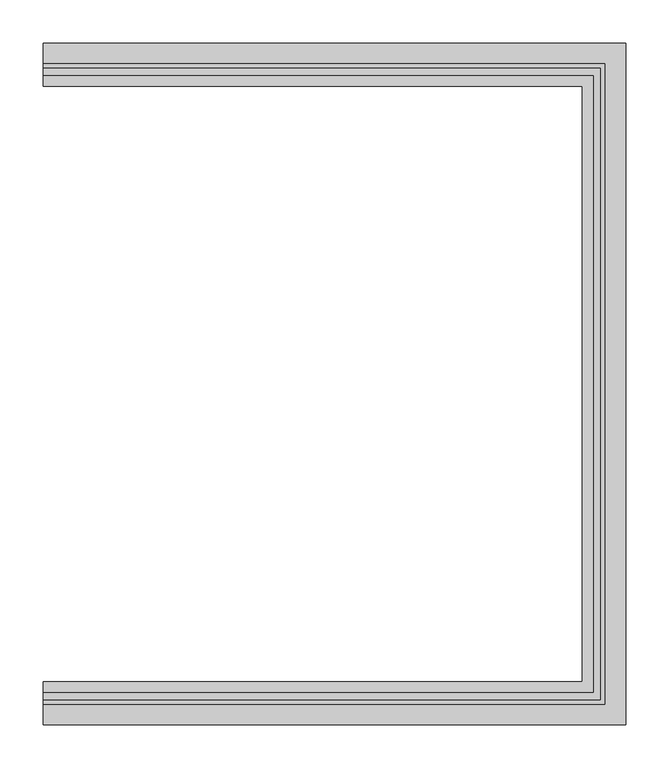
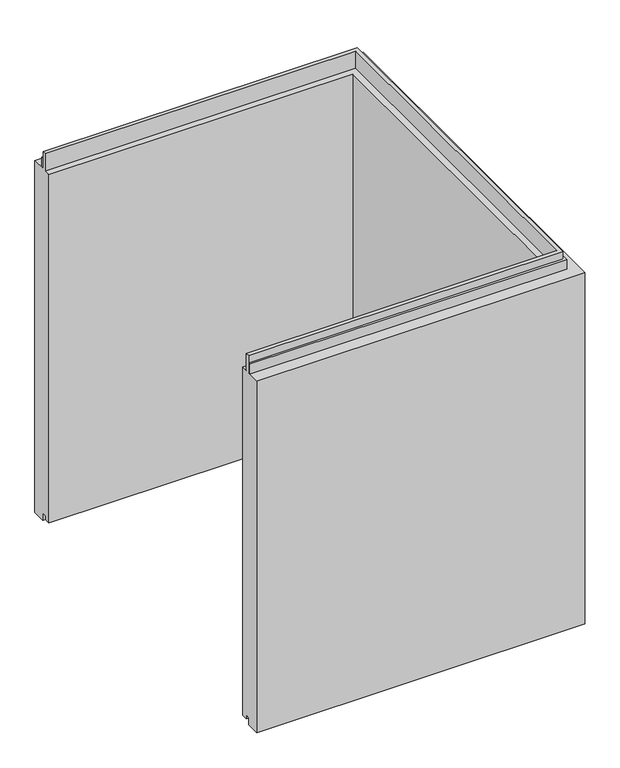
"""IFC4 building model written with IfcOpenShell, lengths in millimetres: plate geometry, Trimo_Qbiss Screen_U Corner Panel-HORIZONTAL : HR - B."""

from ifc_helpers import new_model, si_unit, frame, origin, place, context, project, spatial, polyline, outline, extrude, faceted_brep, source, transform, mapped, element, save


def plate_e0696a3b(model_context):
    return source(origin(), model_context, "Body", "SolidModel", [
        faceted_brep([(-300.0, 116.0, 764.95), (-300.0, 145.0, 764.95), (-300.0, 145.0, 0.0), (-300.0, 117.0, 0.0), (-300.0, 117.0, 15.5), (-300.0, 107.0, 15.5), (-300.0, 107.0, 7.0), (-300.0, 95.0, 7.0), (-300.0, 95.0, 764.95), (-300.0, 108.0, 764.95), (-300.0, 108.0, 802.45), (-300.0, 116.0, 802.45), (346.0, 116.0, 764.95), (346.0, -616.0, 764.95), (-300.0, -616.0, 764.95), (-300.0, -645.0, 764.95), (375.0, -645.0, 764.95), (375.0, 145.0, 764.95), (375.0, 145.0, 0.0), (375.0, -645.0, 0.0), (-300.0, -645.0, 0.0), (-300.0, -617.0, 0.0), (347.0, -617.0, 0.0), (347.0, 117.0, 0.0), (347.0, 117.0, 15.5), (347.0, -617.0, 15.5), (-300.0, -617.0, 15.5), (-300.0, -607.0, 15.5), (337.0, -607.0, 15.5), (337.0, 107.0, 15.5), (337.0, 107.0, 7.0), (337.0, -607.0, 7.0), (-300.0, -607.0, 7.0), (-300.0, -595.0, 7.0), (325.0, -595.0, 7.0), (325.0, 95.0, 7.0), (325.0, 95.0, 764.95), (325.0, -595.0, 764.95), (-300.0, -595.0, 764.95), (-300.0, -608.0, 764.95), (338.0, -608.0, 764.95), (338.0, 108.0, 764.95), (338.0, 108.0, 802.45), (338.0, -608.0, 802.45), (-300.0, -608.0, 802.45), (-300.0, -616.0, 802.45), (346.0, -616.0, 802.45), (346.0, 116.0, 802.45)], [[[0, 1, 2, 3, 4, 5, 6, 7, 8, 9, 10, 11]], [[1, 0, 12, 13, 14, 15, 16, 17]], [[2, 1, 17, 18]], [[3, 2, 18, 19, 20, 21, 22, 23]], [[4, 3, 23, 24]], [[5, 4, 24, 25, 26, 27, 28, 29]], [[6, 5, 29, 30]], [[7, 6, 30, 31, 32, 33, 34, 35]], [[8, 7, 35, 36]], [[9, 8, 36, 37, 38, 39, 40, 41]], [[10, 9, 41, 42]], [[11, 10, 42, 43, 44, 45, 46, 47]], [[0, 11, 47, 12]], [[14, 45, 44, 39, 38, 33, 32, 27, 26, 21, 20, 15]], [[18, 17, 16, 19]], [[24, 23, 22, 25]], [[30, 29, 28, 31]], [[36, 35, 34, 37]], [[42, 41, 40, 43]], [[12, 47, 46, 13]], [[19, 16, 15, 20]], [[25, 22, 21, 26]], [[31, 28, 27, 32]], [[37, 34, 33, 38]], [[43, 40, 39, 44]], [[13, 46, 45, 14]]]),
        extrude(outline(polyline([(-300.0, 116.0), (-300.0, 121.0), (351.0, 121.0), (351.0, -621.0), (-300.0, -621.0), (-300.0, -616.0), (346.0, -616.0), (346.0, 116.0), (-300.0, 116.0)])), frame((0.0, 0.0, 765.95), z_axis=(0.0, 0.0, 1.0), x_axis=(1.0, 0.0, 0.0)), (0.0, 0.0, 1.0), 21.0),
    ])


if __name__ == "__main__":
    model = new_model("IFC4")
    model_context = context("Model", 3, world=origin())
    ifc_project = project(units=[si_unit("LENGTHUNIT", "METRE", prefix="MILLI")], contexts=[model_context])
    site = spatial("IfcSite", under=ifc_project)
    building = spatial("IfcBuilding", under=site)
    placement = place(None, origin())
    plate_shape = plate_e0696a3b(model_context)
    element("IfcPlate", 1, ObjectType="Trimo_Qbiss Screen_U Corner Panel-HORIZONTAL : HR - B", at=placement, inside=building, context=model_context, shape_type="MappedRepresentation", body=[
        mapped(plate_shape, transform((0.0, 0.0, 0.0), x_axis=(1.0, 0.0, 0.0), y_axis=(0.0, 1.0, 0.0), z_axis=(0.0, 0.0, 1.0))),
    ])
    save(model, "model.ifc")
